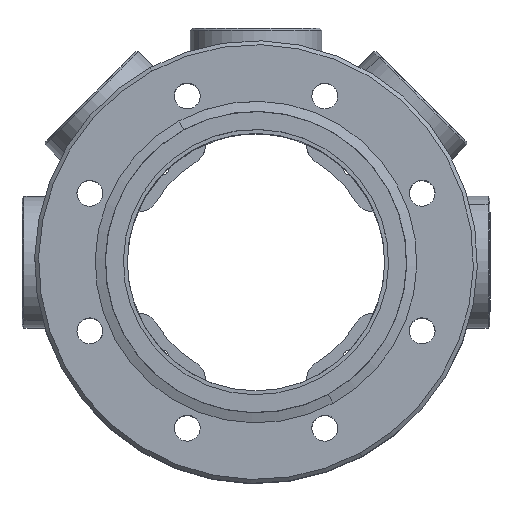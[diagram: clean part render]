
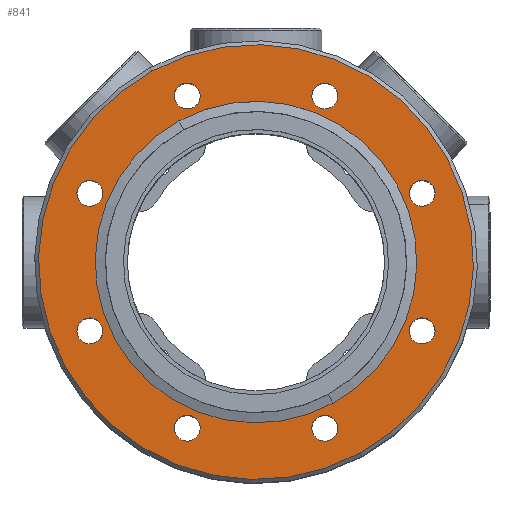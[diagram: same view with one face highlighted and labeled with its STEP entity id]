
A CAD part, top view. The second image highlights one B-rep face of the part: STEP entity #841.
In plain terms, the highlighted planar face has unit normal (0, 0, 1) as drawn and (1, 0, 0) by its records, which use the part's own axes.
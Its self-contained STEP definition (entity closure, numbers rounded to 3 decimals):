
#71=AXIS2_PLACEMENT_3D('Circle Axis2P3D',#69,#70,$) ;
#88=AXIS2_PLACEMENT_3D('Circle Axis2P3D',#86,#87,$) ;
#354=AXIS2_PLACEMENT_3D('Circle Axis2P3D',#352,#353,$) ;
#373=AXIS2_PLACEMENT_3D('Circle Axis2P3D',#371,#372,$) ;
#413=AXIS2_PLACEMENT_3D('Circle Axis2P3D',#411,#412,$) ;
#430=AXIS2_PLACEMENT_3D('Circle Axis2P3D',#428,#429,$) ;
#470=AXIS2_PLACEMENT_3D('Circle Axis2P3D',#468,#469,$) ;
#487=AXIS2_PLACEMENT_3D('Circle Axis2P3D',#485,#486,$) ;
#527=AXIS2_PLACEMENT_3D('Circle Axis2P3D',#525,#526,$) ;
#544=AXIS2_PLACEMENT_3D('Circle Axis2P3D',#542,#543,$) ;
#584=AXIS2_PLACEMENT_3D('Circle Axis2P3D',#582,#583,$) ;
#601=AXIS2_PLACEMENT_3D('Circle Axis2P3D',#599,#600,$) ;
#641=AXIS2_PLACEMENT_3D('Circle Axis2P3D',#639,#640,$) ;
#658=AXIS2_PLACEMENT_3D('Circle Axis2P3D',#656,#657,$) ;
#698=AXIS2_PLACEMENT_3D('Circle Axis2P3D',#696,#697,$) ;
#715=AXIS2_PLACEMENT_3D('Circle Axis2P3D',#713,#714,$) ;
#755=AXIS2_PLACEMENT_3D('Circle Axis2P3D',#753,#754,$) ;
#772=AXIS2_PLACEMENT_3D('Circle Axis2P3D',#770,#771,$) ;
#785=AXIS2_PLACEMENT_3D('Plane Axis2P3D',#782,#783,#784) ;
#789=AXIS2_PLACEMENT_3D('Circle Axis2P3D',#787,#788,$) ;
#798=AXIS2_PLACEMENT_3D('Circle Axis2P3D',#796,#797,$) ;
#52=CARTESIAN_POINT('Vertex',(0.,39.674,19.235)) ;
#66=CARTESIAN_POINT('Vertex',(0.,45.507,16.048)) ;
#69=CARTESIAN_POINT('Axis2P3D Location',(0.,42.591,17.642)) ;
#86=CARTESIAN_POINT('Axis2P3D Location',(0.,42.591,17.642)) ;
#349=CARTESIAN_POINT('Vertex',(0.,-36.178,-19.764)) ;
#352=CARTESIAN_POINT('Axis2P3D Location',(0.,0.,0.)) ;
#356=CARTESIAN_POINT('Vertex',(0.,36.178,19.764)) ;
#371=CARTESIAN_POINT('Axis2P3D Location',(0.,0.,0.)) ;
#394=CARTESIAN_POINT('Vertex',(0.,19.235,-39.674)) ;
#408=CARTESIAN_POINT('Vertex',(0.,16.048,-45.507)) ;
#411=CARTESIAN_POINT('Axis2P3D Location',(0.,17.642,-42.591)) ;
#428=CARTESIAN_POINT('Axis2P3D Location',(0.,17.642,-42.591)) ;
#451=CARTESIAN_POINT('Vertex',(0.,-14.453,-41.655)) ;
#465=CARTESIAN_POINT('Vertex',(0.,-20.831,-43.527)) ;
#468=CARTESIAN_POINT('Axis2P3D Location',(0.,-17.642,-42.591)) ;
#485=CARTESIAN_POINT('Axis2P3D Location',(0.,-17.642,-42.591)) ;
#508=CARTESIAN_POINT('Vertex',(0.,-41.655,14.453)) ;
#522=CARTESIAN_POINT('Vertex',(0.,-43.527,20.831)) ;
#525=CARTESIAN_POINT('Axis2P3D Location',(0.,-42.591,17.642)) ;
#542=CARTESIAN_POINT('Axis2P3D Location',(0.,-42.591,17.642)) ;
#565=CARTESIAN_POINT('Vertex',(0.,-19.235,39.674)) ;
#579=CARTESIAN_POINT('Vertex',(0.,-16.048,45.507)) ;
#582=CARTESIAN_POINT('Axis2P3D Location',(0.,-17.642,42.591)) ;
#599=CARTESIAN_POINT('Axis2P3D Location',(0.,-17.642,42.591)) ;
#622=CARTESIAN_POINT('Vertex',(0.,41.655,-14.453)) ;
#636=CARTESIAN_POINT('Vertex',(0.,43.527,-20.831)) ;
#639=CARTESIAN_POINT('Axis2P3D Location',(0.,42.591,-17.642)) ;
#656=CARTESIAN_POINT('Axis2P3D Location',(0.,42.591,-17.642)) ;
#679=CARTESIAN_POINT('Vertex',(0.,-39.674,-19.235)) ;
#693=CARTESIAN_POINT('Vertex',(0.,-45.507,-16.048)) ;
#696=CARTESIAN_POINT('Axis2P3D Location',(0.,-42.591,-17.642)) ;
#713=CARTESIAN_POINT('Axis2P3D Location',(0.,-42.591,-17.642)) ;
#736=CARTESIAN_POINT('Vertex',(0.,14.453,41.655)) ;
#750=CARTESIAN_POINT('Vertex',(0.,20.831,43.527)) ;
#753=CARTESIAN_POINT('Axis2P3D Location',(0.,17.642,42.591)) ;
#770=CARTESIAN_POINT('Axis2P3D Location',(0.,17.642,42.591)) ;
#782=CARTESIAN_POINT('Axis2P3D Location',(0.,56.75,0.)) ;
#787=CARTESIAN_POINT('Axis2P3D Location',(0.,0.,0.)) ;
#791=CARTESIAN_POINT('Vertex',(0.,-48.925,-26.728)) ;
#793=CARTESIAN_POINT('Vertex',(0.,48.925,26.728)) ;
#796=CARTESIAN_POINT('Axis2P3D Location',(0.,0.,0.)) ;
#70=DIRECTION('Axis2P3D Direction',(-1.,0.,-0.)) ;
#87=DIRECTION('Axis2P3D Direction',(-1.,0.,-0.)) ;
#353=DIRECTION('Axis2P3D Direction',(1.,0.,0.)) ;
#372=DIRECTION('Axis2P3D Direction',(1.,0.,0.)) ;
#412=DIRECTION('Axis2P3D Direction',(-1.,0.,-0.)) ;
#429=DIRECTION('Axis2P3D Direction',(-1.,0.,-0.)) ;
#469=DIRECTION('Axis2P3D Direction',(-1.,-0.,0.)) ;
#486=DIRECTION('Axis2P3D Direction',(-1.,-0.,0.)) ;
#526=DIRECTION('Axis2P3D Direction',(-1.,0.,0.)) ;
#543=DIRECTION('Axis2P3D Direction',(-1.,0.,0.)) ;
#583=DIRECTION('Axis2P3D Direction',(-1.,0.,0.)) ;
#600=DIRECTION('Axis2P3D Direction',(-1.,0.,0.)) ;
#640=DIRECTION('Axis2P3D Direction',(-1.,0.,-0.)) ;
#657=DIRECTION('Axis2P3D Direction',(-1.,0.,-0.)) ;
#697=DIRECTION('Axis2P3D Direction',(-1.,-0.,0.)) ;
#714=DIRECTION('Axis2P3D Direction',(-1.,-0.,0.)) ;
#754=DIRECTION('Axis2P3D Direction',(-1.,0.,0.)) ;
#771=DIRECTION('Axis2P3D Direction',(-1.,0.,0.)) ;
#783=DIRECTION('Axis2P3D Direction',(1.,0.,0.)) ;
#784=DIRECTION('Axis2P3D XDirection',(0.,1.,0.)) ;
#788=DIRECTION('Axis2P3D Direction',(1.,0.,0.)) ;
#797=DIRECTION('Axis2P3D Direction',(1.,0.,0.)) ;
#802=ORIENTED_EDGE('',*,*,#795,.T.) ;
#803=ORIENTED_EDGE('',*,*,#800,.T.) ;
#806=ORIENTED_EDGE('',*,*,#90,.F.) ;
#807=ORIENTED_EDGE('',*,*,#73,.F.) ;
#810=ORIENTED_EDGE('',*,*,#375,.F.) ;
#811=ORIENTED_EDGE('',*,*,#358,.F.) ;
#814=ORIENTED_EDGE('',*,*,#757,.F.) ;
#815=ORIENTED_EDGE('',*,*,#774,.F.) ;
#818=ORIENTED_EDGE('',*,*,#586,.F.) ;
#819=ORIENTED_EDGE('',*,*,#603,.F.) ;
#822=ORIENTED_EDGE('',*,*,#529,.F.) ;
#823=ORIENTED_EDGE('',*,*,#546,.F.) ;
#826=ORIENTED_EDGE('',*,*,#700,.F.) ;
#827=ORIENTED_EDGE('',*,*,#717,.F.) ;
#830=ORIENTED_EDGE('',*,*,#472,.F.) ;
#831=ORIENTED_EDGE('',*,*,#489,.F.) ;
#834=ORIENTED_EDGE('',*,*,#415,.F.) ;
#835=ORIENTED_EDGE('',*,*,#432,.F.) ;
#838=ORIENTED_EDGE('',*,*,#643,.F.) ;
#839=ORIENTED_EDGE('',*,*,#660,.F.) ;
#808=FACE_BOUND('',#805,.T.) ;
#812=FACE_BOUND('',#809,.T.) ;
#816=FACE_BOUND('',#813,.T.) ;
#820=FACE_BOUND('',#817,.T.) ;
#824=FACE_BOUND('',#821,.T.) ;
#828=FACE_BOUND('',#825,.T.) ;
#832=FACE_BOUND('',#829,.T.) ;
#836=FACE_BOUND('',#833,.T.) ;
#840=FACE_BOUND('',#837,.T.) ;
#841=ADVANCED_FACE('Hauptk\X2\00F6\X0\rper',(#804,#808,#812,#816,#820,#824,#828,#832,#836,#840),#786,.T.) ;
#72=CIRCLE('generated circle',#71,3.324) ;
#89=CIRCLE('generated circle',#88,3.324) ;
#355=CIRCLE('generated circle',#354,41.225) ;
#374=CIRCLE('generated circle',#373,41.225) ;
#414=CIRCLE('generated circle',#413,3.324) ;
#431=CIRCLE('generated circle',#430,3.324) ;
#471=CIRCLE('generated circle',#470,3.324) ;
#488=CIRCLE('generated circle',#487,3.324) ;
#528=CIRCLE('generated circle',#527,3.324) ;
#545=CIRCLE('generated circle',#544,3.324) ;
#585=CIRCLE('generated circle',#584,3.324) ;
#602=CIRCLE('generated circle',#601,3.324) ;
#642=CIRCLE('generated circle',#641,3.324) ;
#659=CIRCLE('generated circle',#658,3.324) ;
#699=CIRCLE('generated circle',#698,3.324) ;
#716=CIRCLE('generated circle',#715,3.324) ;
#756=CIRCLE('generated circle',#755,3.324) ;
#773=CIRCLE('generated circle',#772,3.324) ;
#790=CIRCLE('generated circle',#789,55.75) ;
#799=CIRCLE('generated circle',#798,55.75) ;
#73=EDGE_CURVE('',#67,#53,#72,.F.) ;
#90=EDGE_CURVE('',#53,#67,#89,.F.) ;
#358=EDGE_CURVE('',#350,#357,#355,.T.) ;
#375=EDGE_CURVE('',#357,#350,#374,.T.) ;
#415=EDGE_CURVE('',#409,#395,#414,.F.) ;
#432=EDGE_CURVE('',#395,#409,#431,.F.) ;
#472=EDGE_CURVE('',#466,#452,#471,.F.) ;
#489=EDGE_CURVE('',#452,#466,#488,.F.) ;
#529=EDGE_CURVE('',#523,#509,#528,.F.) ;
#546=EDGE_CURVE('',#509,#523,#545,.F.) ;
#586=EDGE_CURVE('',#580,#566,#585,.F.) ;
#603=EDGE_CURVE('',#566,#580,#602,.F.) ;
#643=EDGE_CURVE('',#637,#623,#642,.F.) ;
#660=EDGE_CURVE('',#623,#637,#659,.F.) ;
#700=EDGE_CURVE('',#694,#680,#699,.F.) ;
#717=EDGE_CURVE('',#680,#694,#716,.F.) ;
#757=EDGE_CURVE('',#751,#737,#756,.F.) ;
#774=EDGE_CURVE('',#737,#751,#773,.F.) ;
#795=EDGE_CURVE('',#792,#794,#790,.T.) ;
#800=EDGE_CURVE('',#794,#792,#799,.T.) ;
#801=EDGE_LOOP('',(#802,#803)) ;
#805=EDGE_LOOP('',(#806,#807)) ;
#809=EDGE_LOOP('',(#810,#811)) ;
#813=EDGE_LOOP('',(#814,#815)) ;
#817=EDGE_LOOP('',(#818,#819)) ;
#821=EDGE_LOOP('',(#822,#823)) ;
#825=EDGE_LOOP('',(#826,#827)) ;
#829=EDGE_LOOP('',(#830,#831)) ;
#833=EDGE_LOOP('',(#834,#835)) ;
#837=EDGE_LOOP('',(#838,#839)) ;
#804=FACE_OUTER_BOUND('',#801,.T.) ;
#786=PLANE('',#785) ;
#53=VERTEX_POINT('',#52) ;
#67=VERTEX_POINT('',#66) ;
#350=VERTEX_POINT('',#349) ;
#357=VERTEX_POINT('',#356) ;
#395=VERTEX_POINT('',#394) ;
#409=VERTEX_POINT('',#408) ;
#452=VERTEX_POINT('',#451) ;
#466=VERTEX_POINT('',#465) ;
#509=VERTEX_POINT('',#508) ;
#523=VERTEX_POINT('',#522) ;
#566=VERTEX_POINT('',#565) ;
#580=VERTEX_POINT('',#579) ;
#623=VERTEX_POINT('',#622) ;
#637=VERTEX_POINT('',#636) ;
#680=VERTEX_POINT('',#679) ;
#694=VERTEX_POINT('',#693) ;
#737=VERTEX_POINT('',#736) ;
#751=VERTEX_POINT('',#750) ;
#792=VERTEX_POINT('',#791) ;
#794=VERTEX_POINT('',#793) ;
